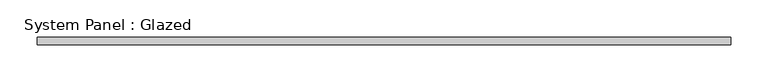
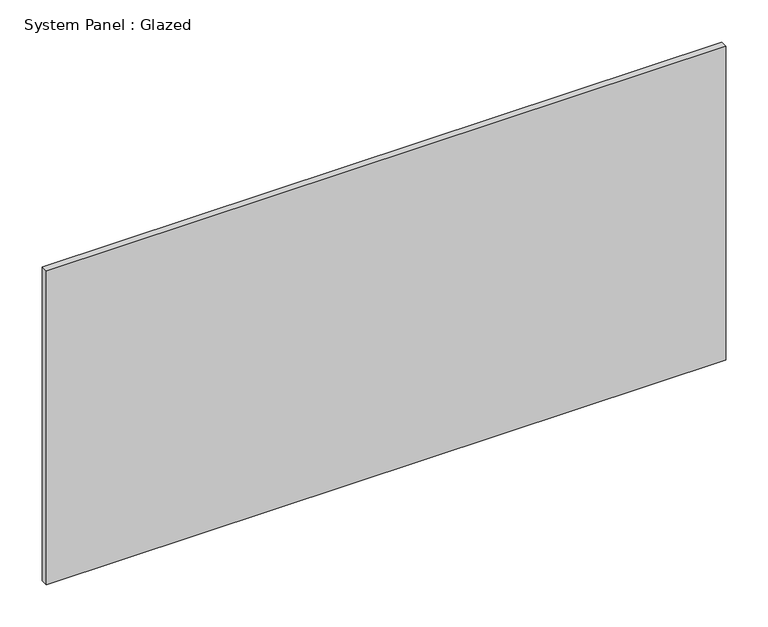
"""IFC4 building model written with IfcOpenShell, lengths in millimetres: plate geometry, System Panel : Glazed."""

from ifc_helpers import new_model, si_unit, origin, origin_with_axes, place, context, project, spatial, polyline, outline, extrude, source, transform, mapped, element, save


def system_panel_glazed_eadaaaed(model_context):
    return source(origin(), model_context, "Body", "SweptSolid", [
        extrude(outline(polyline([(465.7585063, -5.0), (-465.7585063, -5.0), (-465.7585063, 5.0), (465.7585063, 5.0), (465.7585063, -5.0)])), origin_with_axes(), (0.0, 0.0, 1.0), 455.0),
    ])


if __name__ == "__main__":
    model = new_model("IFC4")
    model_context = context("Model", 3, world=origin())
    ifc_project = project(units=[si_unit("LENGTHUNIT", "METRE", prefix="MILLI")], contexts=[model_context])
    site = spatial("IfcSite", under=ifc_project)
    building = spatial("IfcBuilding", under=site)
    placement = place(None, origin())
    system_panel_glazed_shape = system_panel_glazed_eadaaaed(model_context)
    element("IfcPlate", 1, ObjectType="System Panel : Glazed", at=placement, inside=building, context=model_context, shape_type="MappedRepresentation", body=[
        mapped(system_panel_glazed_shape, transform((0.0, 0.0, 0.0), x_axis=(1.0, 0.0, 0.0), y_axis=(0.0, 1.0, 0.0), z_axis=(0.0, 0.0, 1.0))),
    ])
    save(model, "model.ifc")
